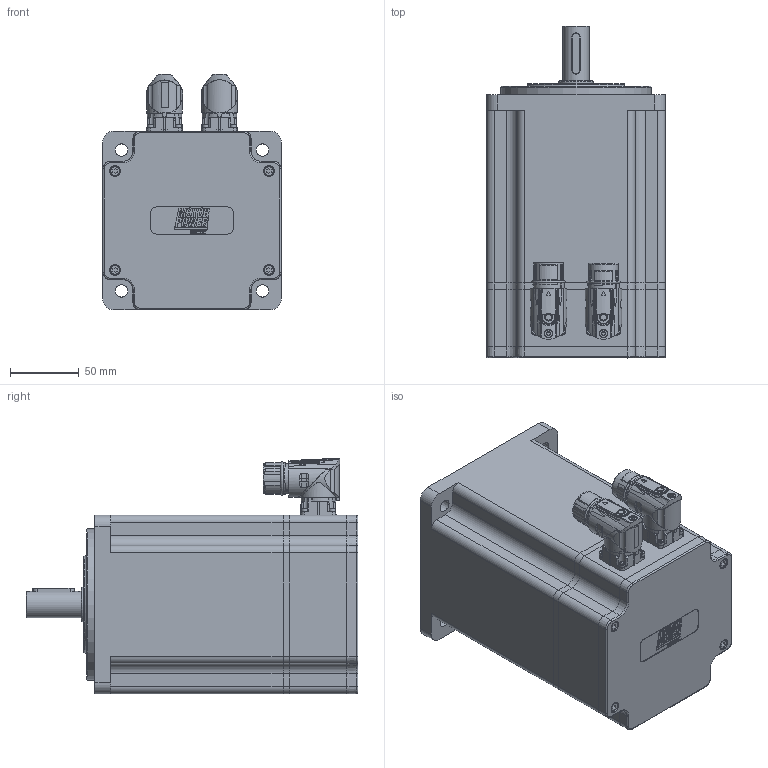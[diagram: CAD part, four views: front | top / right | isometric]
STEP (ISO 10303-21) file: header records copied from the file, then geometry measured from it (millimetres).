
FILE_DESCRIPTION(/* description */ ('Unknown'),/* implementation_level */ '2;1');
FILE_NAME(/* name */ 'TC4-130.5H.XX.X. 3.M1.0.1.C21 Q0C603',/* time_stamp */ '2026-03-05T15:26:41+01:00',/* author */ ('Unknown'),/* organization */ ('Unknown'),/* preprocessor_version */ 'ST-DEVELOPER v19.4',/* originating_system */ 'Solid Edge',/* authorisation */ 'Unknown');
FILE_SCHEMA (('AUTOMOTIVE_DESIGN {1 0 10303 214 3 1 1}'));
Products named in the file (14): Q0C603 5H M1 VUOTO; 005119002009; 007117000456; 005911000432; 005911000185; 007117000454; 003251022006; 003155002224; 005113000500; Corpo TC4-130 5H single cable; 005911000180; 003103040232; 003003199976; 003107003290
Assembly tree (28 placements, depth 2):
  Q0C603 5H M1 VUOTO
    005119002009
    007117000456
    005911000432  x6
    005911000185  x8
    007117000454
    003251022006
    003155002224
    005113000500
    Corpo TC4-130 5H single cable
    005911000180  x4
    003103040232
    003003199976
    003107003290
Bounding box: 130 x 241.5 x 171.5 mm (x, y, z)
Volume: 1135657.3 mm3; surface area: 359926.1 mm2
Topology: 30 solids, 30 shells, 2114 faces, 5325 edges, 3436 vertices
Faces by surface type: plane 943, cylinder 517, cone 253, bspline 231, torus 121, sphere 49
Full cylindrical faces by diameter (mm): 0.5 x1, 1 x21, 1.2 x17, 1.4 x4, 2 x4, 2.013 x16, 2.5 x8, 2.8 x4, 3 x12, 3.242 x26, 4 x11, 4.134 x8, 4.5 x20, 4.7 x8, 4.917 x2, 5.5 x6, 5.8 x1, 5.9 x2, 6 x4, 6.8 x1, 7 x10, 8 x14, 10 x1, 10.4 x4, 15.2 x1, 16 x1, 17.4 x3, 18 x1, 19 x1, 19.9 x1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
Entity records: 74309 total; most frequent: CARTESIAN_POINT 19228, ORIENTED_EDGE 8628, DIRECTION 8257, EDGE_CURVE 4314, AXIS2_PLACEMENT_3D 3168, VERTEX_POINT 3004, FACE_BOUND 2532, EDGE_LOOP 2508
